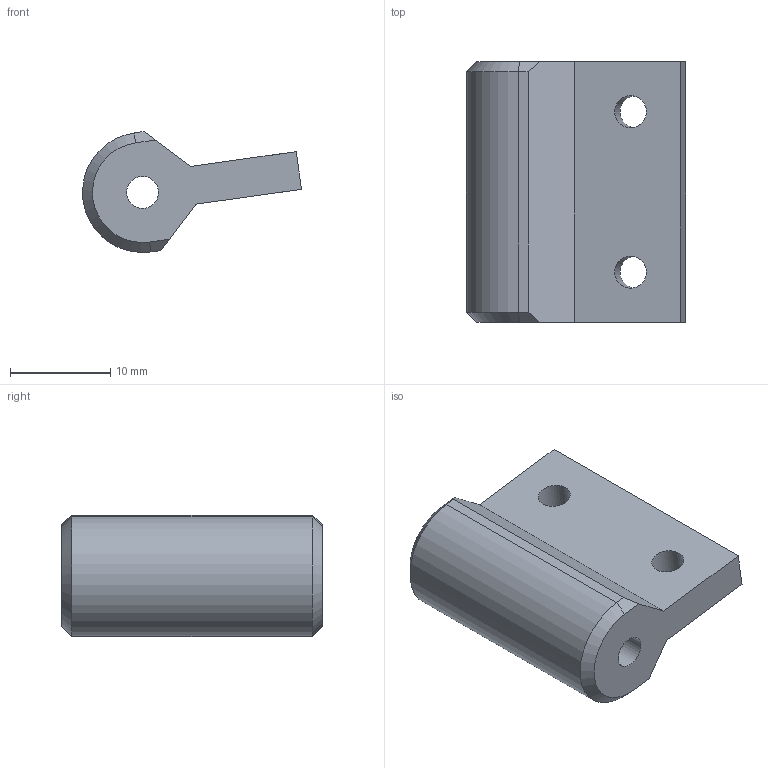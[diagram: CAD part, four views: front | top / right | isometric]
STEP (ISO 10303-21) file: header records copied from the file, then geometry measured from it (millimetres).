
FILE_DESCRIPTION(/* description */ (''),/* implementation_level */ '2;1');
FILE_NAME(/* name */ '3-10-2 Top wishbone insert TPU.step',/* time_stamp */ '2025-05-10T22:04:09+02:00',/* author */ (''),/* organization */ (''),/* preprocessor_version */ 'ST-DEVELOPER v20.1',/* originating_system */ 'Autodesk Translation Framework v14.4.0.0',/* authorisation */ '');
FILE_SCHEMA (('AUTOMOTIVE_DESIGN { 1 0 10303 214 3 1 1 }'));
Length unit declared in the file: millimetre
Products named in the file (1): 3-10-2 Top wishbone insert TPU
Bounding box: 21.86 x 26 x 12.08 mm (x, y, z)
Volume: 3386.1 mm3; surface area: 2040.9 mm2
Topology: 1 solids, 1 shells, 19 faces, 47 edges, 30 vertices
Faces by surface type: plane 13, cylinder 4, cone 2
Full cylindrical faces by diameter (mm): 3.2 x3
Entity records: 611 total; most frequent: DIRECTION 97, CARTESIAN_POINT 97, ORIENTED_EDGE 94, EDGE_CURVE 47, LINE 37, VECTOR 37, VERTEX_POINT 30, AXIS2_PLACEMENT_3D 30
